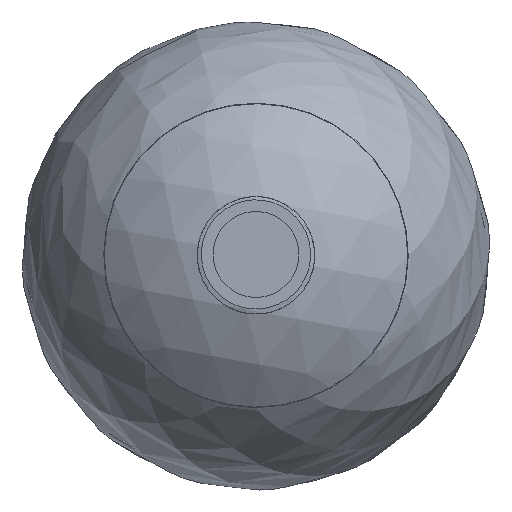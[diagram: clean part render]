
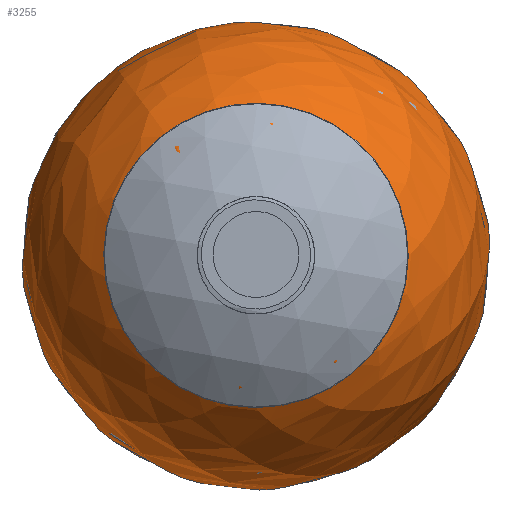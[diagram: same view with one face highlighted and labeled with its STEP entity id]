
A CAD part, top view. The second image highlights one B-rep face of the part: STEP entity #3255.
In plain terms, the highlighted free-form (B-spline) face has degree [2, 2] with [5, 9] control points.
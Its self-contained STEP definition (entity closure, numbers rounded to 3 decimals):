
#13=(
BOUNDED_SURFACE()
B_SPLINE_SURFACE(2,2,((#5783,#5784,#5785,#5786,#5787,#5788,#5789,#5790,
#5791),(#5792,#5793,#5794,#5795,#5796,#5797,#5798,#5799,#5800),(#5801,#5802,
#5803,#5804,#5805,#5806,#5807,#5808,#5809),(#5810,#5811,#5812,#5813,#5814,
#5815,#5816,#5817,#5818),(#5819,#5820,#5821,#5822,#5823,#5824,#5825,#5826,
#5827)),.UNSPECIFIED.,.F.,.T.,.F.)
B_SPLINE_SURFACE_WITH_KNOTS((3,2,3),(3,2,2,2,3),(-1.317,0.127,
1.571),(-3.142,-1.571,0.,1.571,
3.142),.UNSPECIFIED.)
GEOMETRIC_REPRESENTATION_ITEM()
RATIONAL_B_SPLINE_SURFACE(((1.,0.707,1.,0.707,1.,
0.707,1.,0.707,1.),(0.75,0.531,
0.75,0.531,0.75,0.531,
0.75,0.531,0.75),(1.,0.707,
1.,0.707,1.,0.707,1.,0.707,1.),(0.75,
0.531,0.75,0.531,0.75,
0.531,0.75,0.531,0.75),
(1.,0.707,1.,0.707,1.,0.707,1.,0.707,
1.)))
REPRESENTATION_ITEM('')
SURFACE()
);
#867=FACE_OUTER_BOUND('',#1086,.T.);
#1086=EDGE_LOOP('',(#2932,#2933,#2934));
#1270=CIRCLE('',#3695,75.361);
#1272=CIRCLE('',#3697,300.);
#1553=VERTEX_POINT('',#5780);
#1554=VERTEX_POINT('',#5828);
#2013=EDGE_CURVE('',#1553,#1553,#1270,.T.);
#2015=EDGE_CURVE('',#1554,#1553,#1272,.T.);
#2932=ORIENTED_EDGE('',*,*,#2015,.T.);
#2933=ORIENTED_EDGE('',*,*,#2013,.T.);
#2934=ORIENTED_EDGE('',*,*,#2015,.F.);
#3255=ADVANCED_FACE('',(#867),#13,.F.);
#3695=AXIS2_PLACEMENT_3D('',#5781,#4731,#4732);
#3697=AXIS2_PLACEMENT_3D('',#5829,#4735,#4736);
#4731=DIRECTION('center_axis',(0.,0.,
-1.));
#4732=DIRECTION('ref_axis',(-0.966,-0.259,0.));
#4735=DIRECTION('center_axis',(0.966,0.259,0.));
#4736=DIRECTION('ref_axis',(-0.259,0.966,0.));
#5780=CARTESIAN_POINT('',(-19.517,72.79,590.409));
#5781=CARTESIAN_POINT('Origin',(0.,0.,
590.409));
#5783=CARTESIAN_POINT('Ctrl Pts',(-19.517,72.79,590.409));
#5784=CARTESIAN_POINT('Ctrl Pts',(53.273,92.307,590.409));
#5785=CARTESIAN_POINT('Ctrl Pts',(72.79,19.517,590.409));
#5786=CARTESIAN_POINT('Ctrl Pts',(92.307,-53.273,590.409));
#5787=CARTESIAN_POINT('Ctrl Pts',(19.517,-72.79,590.409));
#5788=CARTESIAN_POINT('Ctrl Pts',(-53.273,-92.307,590.409));
#5789=CARTESIAN_POINT('Ctrl Pts',(-72.79,-19.517,590.409));
#5790=CARTESIAN_POINT('Ctrl Pts',(-92.307,53.273,590.409));
#5791=CARTESIAN_POINT('Ctrl Pts',(-19.517,72.79,590.409));
#5792=CARTESIAN_POINT('Ctrl Pts',(-85.761,319.855,524.129));
#5793=CARTESIAN_POINT('Ctrl Pts',(234.094,405.616,524.129));
#5794=CARTESIAN_POINT('Ctrl Pts',(319.855,85.761,524.129));
#5795=CARTESIAN_POINT('Ctrl Pts',(405.616,-234.094,524.129));
#5796=CARTESIAN_POINT('Ctrl Pts',(85.761,-319.855,524.129));
#5797=CARTESIAN_POINT('Ctrl Pts',(-234.094,-405.616,524.129));
#5798=CARTESIAN_POINT('Ctrl Pts',(-319.855,-85.761,524.129));
#5799=CARTESIAN_POINT('Ctrl Pts',(-405.616,234.094,524.129));
#5800=CARTESIAN_POINT('Ctrl Pts',(-85.761,319.855,524.129));
#5801=CARTESIAN_POINT('Ctrl Pts',(-77.097,287.54,262.016));
#5802=CARTESIAN_POINT('Ctrl Pts',(210.443,364.637,262.016));
#5803=CARTESIAN_POINT('Ctrl Pts',(287.54,77.097,262.016));
#5804=CARTESIAN_POINT('Ctrl Pts',(364.637,-210.443,262.016));
#5805=CARTESIAN_POINT('Ctrl Pts',(77.097,-287.54,262.016));
#5806=CARTESIAN_POINT('Ctrl Pts',(-210.443,-364.637,262.016));
#5807=CARTESIAN_POINT('Ctrl Pts',(-287.54,-77.097,262.016));
#5808=CARTESIAN_POINT('Ctrl Pts',(-364.637,210.443,262.016));
#5809=CARTESIAN_POINT('Ctrl Pts',(-77.097,287.54,262.016));
#5810=CARTESIAN_POINT('Ctrl Pts',(-68.432,255.225,-0.098));
#5811=CARTESIAN_POINT('Ctrl Pts',(186.792,323.657,-0.098));
#5812=CARTESIAN_POINT('Ctrl Pts',(255.225,68.432,-0.098));
#5813=CARTESIAN_POINT('Ctrl Pts',(323.657,-186.792,-0.098));
#5814=CARTESIAN_POINT('Ctrl Pts',(68.432,-255.225,-0.098));
#5815=CARTESIAN_POINT('Ctrl Pts',(-186.792,-323.657,-0.098));
#5816=CARTESIAN_POINT('Ctrl Pts',(-255.225,-68.432,-0.098));
#5817=CARTESIAN_POINT('Ctrl Pts',(-323.657,186.792,-0.098));
#5818=CARTESIAN_POINT('Ctrl Pts',(-68.432,255.225,-0.098));
#5819=CARTESIAN_POINT('Ctrl Pts',(0.,0.,
0.));
#5820=CARTESIAN_POINT('Ctrl Pts',(0.,0.,
0.));
#5821=CARTESIAN_POINT('Ctrl Pts',(0.,0.,
0.));
#5822=CARTESIAN_POINT('Ctrl Pts',(0.,0.,
0.));
#5823=CARTESIAN_POINT('Ctrl Pts',(0.,0.,
0.));
#5824=CARTESIAN_POINT('Ctrl Pts',(0.,0.,
0.));
#5825=CARTESIAN_POINT('Ctrl Pts',(0.,0.,
0.));
#5826=CARTESIAN_POINT('Ctrl Pts',(0.,0.,
0.));
#5827=CARTESIAN_POINT('Ctrl Pts',(0.,0.,
0.));
#5828=CARTESIAN_POINT('',(0.,0.,0.));
#5829=CARTESIAN_POINT('Origin',(-0.029,0.107,300.));
